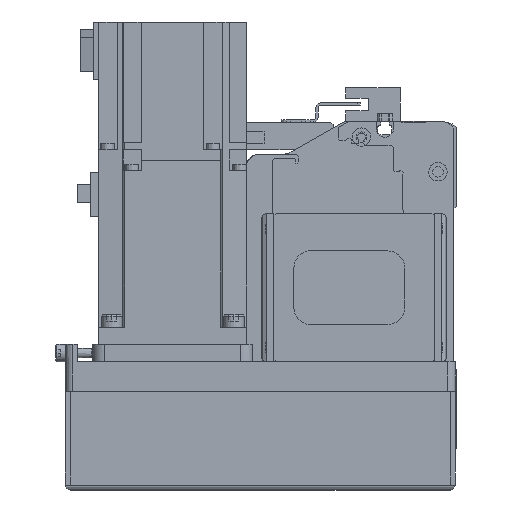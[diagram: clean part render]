
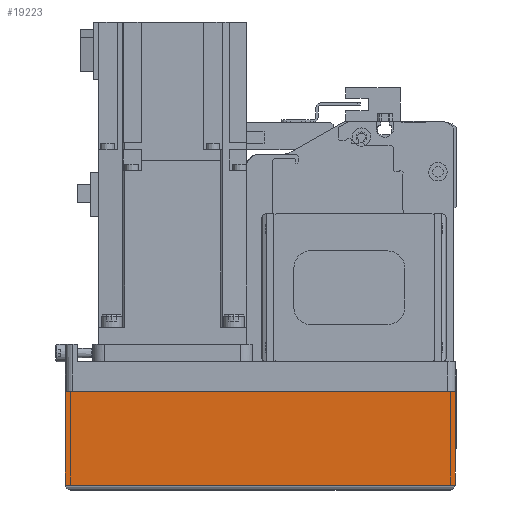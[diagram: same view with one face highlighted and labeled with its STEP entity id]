
A CAD part, left-side view. The second image highlights one B-rep face of the part: STEP entity #19223.
In plain terms, the highlighted planar face has unit normal (-1, 0, 0) as drawn and (0, -1, 0) by its records, which use the part's own axes.
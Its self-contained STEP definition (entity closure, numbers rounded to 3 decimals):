
#2964=ORIENTED_EDGE('',*,*,#7699,.F.);
#2965=ORIENTED_EDGE('',*,*,#7681,.F.);
#2966=ORIENTED_EDGE('',*,*,#7716,.T.);
#2967=ORIENTED_EDGE('',*,*,#7771,.T.);
#7681=EDGE_CURVE('',#10239,#10240,#12205,.T.);
#7699=EDGE_CURVE('',#10240,#10256,#12223,.T.);
#7716=EDGE_CURVE('',#10239,#10266,#12236,.T.);
#7771=EDGE_CURVE('',#10266,#10256,#12264,.T.);
#10239=VERTEX_POINT('',#29436);
#10240=VERTEX_POINT('',#29437);
#10256=VERTEX_POINT('',#29474);
#10266=VERTEX_POINT('',#29504);
#12205=LINE('',#29435,#13905);
#12223=LINE('',#29473,#13923);
#12236=LINE('',#29505,#13936);
#12264=LINE('',#29603,#13964);
#13905=VECTOR('',#23555,1000.);
#13923=VECTOR('',#23579,1000.);
#13936=VECTOR('',#23608,1000.);
#13964=VECTOR('',#23736,1000.);
#15493=EDGE_LOOP('',(#2964,#2965,#2966,#2967));
#17053=FACE_BOUND('',#15493,.T.);
#18440=PLANE('',#20620);
#19223=ADVANCED_FACE('',(#17053),#18440,.T.);
#20620=AXIS2_PLACEMENT_3D('',#29604,#23737,#23738);
#23555=DIRECTION('',(1.,0.,0.));
#23579=DIRECTION('',(0.,0.,-1.));
#23608=DIRECTION('',(0.,0.,-1.));
#23736=DIRECTION('',(1.,0.,0.));
#23737=DIRECTION('',(0.,-1.,0.));
#23738=DIRECTION('',(0.,0.,-1.));
#29435=CARTESIAN_POINT('',(-158.,-39.,-12.1));
#29436=CARTESIAN_POINT('',(-158.,-39.,-12.1));
#29437=CARTESIAN_POINT('',(0.,-39.,-12.1));
#29473=CARTESIAN_POINT('',(0.,-39.,-12.1));
#29474=CARTESIAN_POINT('',(0.,-39.,-50.));
#29504=CARTESIAN_POINT('',(-158.,-39.,-50.));
#29505=CARTESIAN_POINT('',(-158.,-39.,-12.1));
#29603=CARTESIAN_POINT('',(-158.,-39.,-50.));
#29604=CARTESIAN_POINT('',(-158.,-39.,-12.1));
